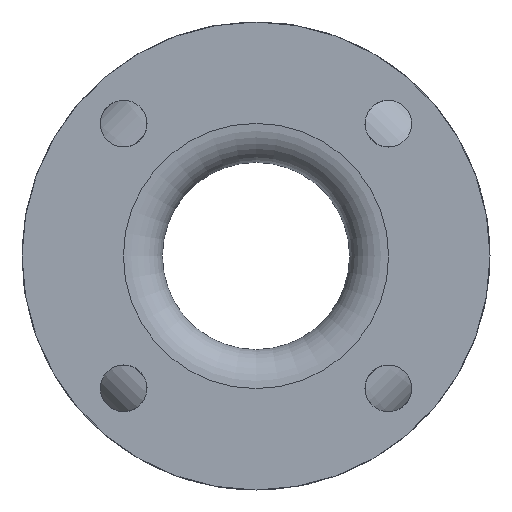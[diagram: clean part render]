
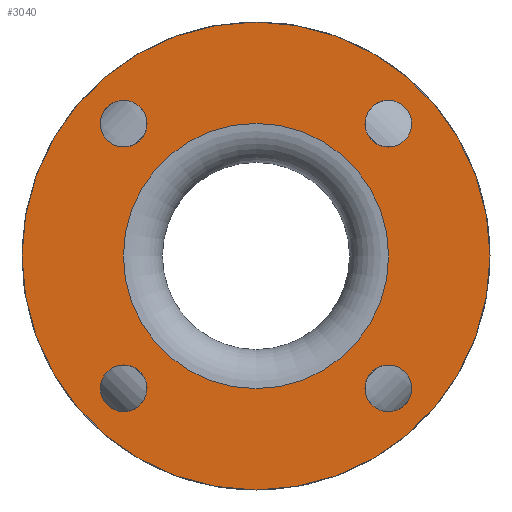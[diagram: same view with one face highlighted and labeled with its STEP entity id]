
A CAD part, left-side view. The second image highlights one B-rep face of the part: STEP entity #3040.
In plain terms, the highlighted planar face has unit normal (-1, 0, 0).
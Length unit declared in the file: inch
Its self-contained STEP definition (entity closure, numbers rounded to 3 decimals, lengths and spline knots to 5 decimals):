
#63=FACE_BOUND('',#579,.T.);
#64=FACE_BOUND('',#580,.T.);
#65=FACE_BOUND('',#581,.T.);
#66=FACE_BOUND('',#582,.T.);
#67=FACE_BOUND('',#583,.T.);
#367=FACE_OUTER_BOUND('',#578,.T.);
#578=EDGE_LOOP('',(#2632));
#579=EDGE_LOOP('',(#2633));
#580=EDGE_LOOP('',(#2634));
#581=EDGE_LOOP('',(#2635));
#582=EDGE_LOOP('',(#2636));
#583=EDGE_LOOP('',(#2637));
#1142=CIRCLE('',#3408,0.375);
#1143=CIRCLE('',#3410,0.375);
#1144=CIRCLE('',#3412,0.375);
#1145=CIRCLE('',#3414,0.375);
#1153=CIRCLE('',#3429,2.125);
#1154=CIRCLE('',#3431,3.75);
#1426=VERTEX_POINT('',#5419);
#1427=VERTEX_POINT('',#5422);
#1428=VERTEX_POINT('',#5425);
#1429=VERTEX_POINT('',#5428);
#1437=VERTEX_POINT('',#5451);
#1438=VERTEX_POINT('',#5454);
#1834=EDGE_CURVE('',#1426,#1426,#1142,.T.);
#1835=EDGE_CURVE('',#1427,#1427,#1143,.T.);
#1836=EDGE_CURVE('',#1428,#1428,#1144,.T.);
#1837=EDGE_CURVE('',#1429,#1429,#1145,.T.);
#1845=EDGE_CURVE('',#1437,#1437,#1153,.T.);
#1846=EDGE_CURVE('',#1438,#1438,#1154,.T.);
#2632=ORIENTED_EDGE('',*,*,#1846,.F.);
#2633=ORIENTED_EDGE('',*,*,#1845,.T.);
#2634=ORIENTED_EDGE('',*,*,#1834,.T.);
#2635=ORIENTED_EDGE('',*,*,#1835,.T.);
#2636=ORIENTED_EDGE('',*,*,#1836,.T.);
#2637=ORIENTED_EDGE('',*,*,#1837,.T.);
#2718=PLANE('',#3430);
#3040=ADVANCED_FACE('',(#367,#63,#64,#65,#66,#67),#2718,.T.);
#3408=AXIS2_PLACEMENT_3D('',#5420,#4321,#4322);
#3410=AXIS2_PLACEMENT_3D('',#5423,#4325,#4326);
#3412=AXIS2_PLACEMENT_3D('',#5426,#4329,#4330);
#3414=AXIS2_PLACEMENT_3D('',#5429,#4333,#4334);
#3429=AXIS2_PLACEMENT_3D('',#5452,#4363,#4364);
#3430=AXIS2_PLACEMENT_3D('',#5453,#4365,#4366);
#3431=AXIS2_PLACEMENT_3D('',#5455,#4367,#4368);
#4321=DIRECTION('center_axis',(1.,0.,0.));
#4322=DIRECTION('ref_axis',(0.,-1.,0.));
#4325=DIRECTION('center_axis',(1.,0.,0.));
#4326=DIRECTION('ref_axis',(0.,0.,
1.));
#4329=DIRECTION('center_axis',(1.,0.,0.));
#4330=DIRECTION('ref_axis',(0.,1.,0.));
#4333=DIRECTION('center_axis',(1.,0.,0.));
#4334=DIRECTION('ref_axis',(0.,0.,-1.));
#4363=DIRECTION('center_axis',(1.,0.,0.));
#4364=DIRECTION('ref_axis',(0.,0.,-1.));
#4365=DIRECTION('center_axis',(-1.,0.,0.));
#4366=DIRECTION('ref_axis',(0.,0.,1.));
#4367=DIRECTION('center_axis',(1.,0.,0.));
#4368=DIRECTION('ref_axis',(0.,0.,-1.));
#5419=CARTESIAN_POINT('',(-3.,-1.74632,-2.12132));
#5420=CARTESIAN_POINT('Origin',(-3.,-2.12132,-2.12132));
#5422=CARTESIAN_POINT('',(-3.,-2.12132,1.74632));
#5423=CARTESIAN_POINT('Origin',(-3.,-2.12132,2.12132));
#5425=CARTESIAN_POINT('',(-3.,1.74632,2.12132));
#5426=CARTESIAN_POINT('Origin',(-3.,2.12132,2.12132));
#5428=CARTESIAN_POINT('',(-3.,2.12132,-1.74632));
#5429=CARTESIAN_POINT('Origin',(-3.,2.12132,-2.12132));
#5451=CARTESIAN_POINT('',(-3.,2.125,0.));
#5452=CARTESIAN_POINT('Origin',(-3.,0.,0.));
#5453=CARTESIAN_POINT('Origin',(-3.,3.75,0.));
#5454=CARTESIAN_POINT('',(-3.,3.75,0.));
#5455=CARTESIAN_POINT('Origin',(-3.,0.,0.));
